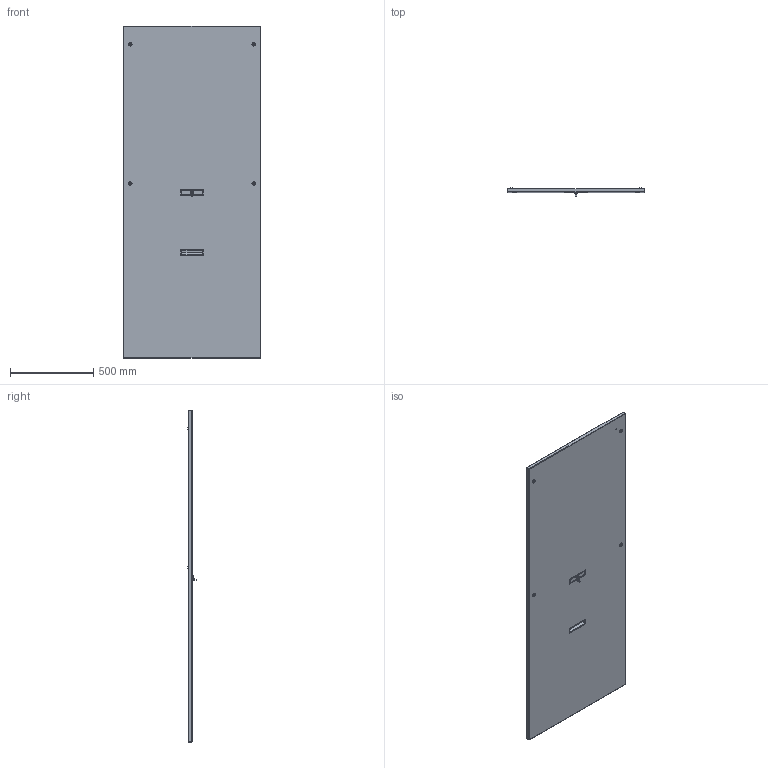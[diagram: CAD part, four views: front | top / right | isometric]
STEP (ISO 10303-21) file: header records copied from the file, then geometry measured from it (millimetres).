
FILE_DESCRIPTION( ( 'Unknown' ), '1' );
FILE_NAME( 'Q:/C2/WEB DRAWINGS/STEP/CSP7836.stp', 'Unknown', ( 'Unknown' ), ( 'Unknown' ), 'XStep 1.0', 'Unknown', ' ' );
FILE_SCHEMA( ( 'CONFIG_CONTROL_DESIGN' ) );
Length unit declared in the file: millimetre
Products named in the file (9): Assem1; Assem2; 1; 2; 3; 4; 5; 6; 7
Bounding box: 823.9 x 49.91 x 1998.68 mm (x, y, z)
Volume: 7678826.2 mm3; surface area: 10567877.1 mm2
Topology: 16 solids, 16 shells, 1166 faces, 3046 edges, 1967 vertices
Faces by surface type: plane 859, cylinder 260, bspline 28, cone 19
Full cylindrical faces by diameter (mm): 4.775 x3, 6.35 x3, 11.049 x8, 13.106 x8, 13.589 x8, 20.015 x8
Entity records: 16861 total; most frequent: CARTESIAN_POINT 3527, ORIENTED_EDGE 2692, DIRECTION 2601, EDGE_CURVE 1346, LINE 971, VECTOR 971, VERTEX_POINT 885, AXIS2_PLACEMENT_3D 815
